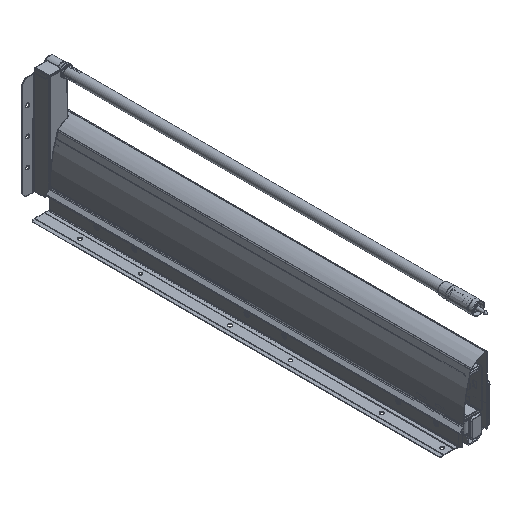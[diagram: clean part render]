
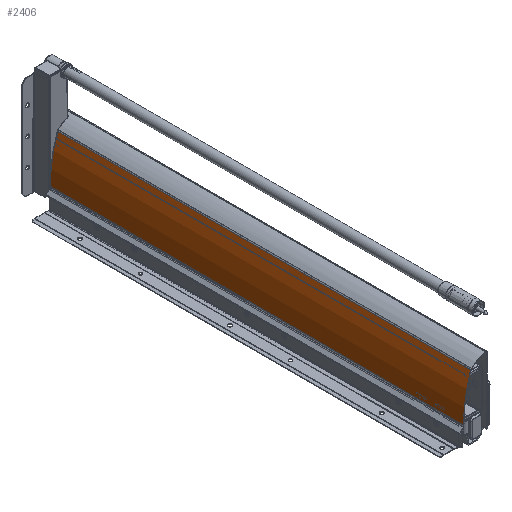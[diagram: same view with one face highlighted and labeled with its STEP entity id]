
A CAD part, isometric view. The second image highlights one B-rep face of the part: STEP entity #2406.
In plain terms, the highlighted cylindrical face has radius 160 mm (diameter 320 mm), a partial arc.
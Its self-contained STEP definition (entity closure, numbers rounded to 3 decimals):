
#2406 = ADVANCED_FACE( '', ( #6273 ), #6274, .T. );
#6273 = FACE_OUTER_BOUND( '', #12299, .T. );
#6274 = CYLINDRICAL_SURFACE( '', #12300, 160. );
#12299 = EDGE_LOOP( '', ( #22949, #22950, #22951, #22952 ) );
#12300 = AXIS2_PLACEMENT_3D( '', #22953, #22954, #22955 );
#22949 = ORIENTED_EDGE( '', *, *, #38072, .F. );
#22950 = ORIENTED_EDGE( '', *, *, #38073, .F. );
#22951 = ORIENTED_EDGE( '', *, *, #38074, .F. );
#22952 = ORIENTED_EDGE( '', *, *, #38075, .T. );
#22953 = CARTESIAN_POINT( '', ( 142.5, -10., 18.574 ) );
#22954 = DIRECTION( '', ( 0., -1., 0. ) );
#22955 = DIRECTION( '', ( 0., 0., 1. ) );
#38072 = EDGE_CURVE( '', #44830, #44831, #44832, .T. );
#38073 = EDGE_CURVE( '', #44833, #44830, #44834, .T. );
#38074 = EDGE_CURVE( '', #44835, #44833, #44836, .T. );
#38075 = EDGE_CURVE( '', #44835, #44831, #44837, .T. );
#44830 = VERTEX_POINT( '', #54648 );
#44831 = VERTEX_POINT( '', #54649 );
#44832 = CIRCLE( '', #54650, 160. );
#44833 = VERTEX_POINT( '', #54651 );
#44834 = LINE( '', #54652, #54653 );
#44835 = VERTEX_POINT( '', #54654 );
#44836 = CIRCLE( '', #54655, 160. );
#44837 = LINE( '', #54656, #54657 );
#54648 = CARTESIAN_POINT( '', ( -17.492, 482., 16.97 ) );
#54649 = CARTESIAN_POINT( '', ( -9.073, 482., 69.814 ) );
#54650 = AXIS2_PLACEMENT_3D( '', #69874, #69875, #69876 );
#54651 = CARTESIAN_POINT( '', ( -17.492, -10., 16.97 ) );
#54652 = CARTESIAN_POINT( '', ( -17.492, -10., 16.97 ) );
#54653 = VECTOR( '', #69877, 1000. );
#54654 = CARTESIAN_POINT( '', ( -9.073, -10., 69.814 ) );
#54655 = AXIS2_PLACEMENT_3D( '', #69878, #69879, #69880 );
#54656 = CARTESIAN_POINT( '', ( -9.073, -10., 69.814 ) );
#54657 = VECTOR( '', #69881, 1000. );
#69874 = CARTESIAN_POINT( '', ( 142.5, 482., 18.574 ) );
#69875 = DIRECTION( '', ( 0., 1., 0. ) );
#69876 = DIRECTION( '', ( 0., 0., 1. ) );
#69877 = DIRECTION( '', ( 0., 1., 0. ) );
#69878 = CARTESIAN_POINT( '', ( 142.5, -10., 18.574 ) );
#69879 = DIRECTION( '', ( 0., -1., 0. ) );
#69880 = DIRECTION( '', ( 1., 0., 0. ) );
#69881 = DIRECTION( '', ( 0., 1., 0. ) );
